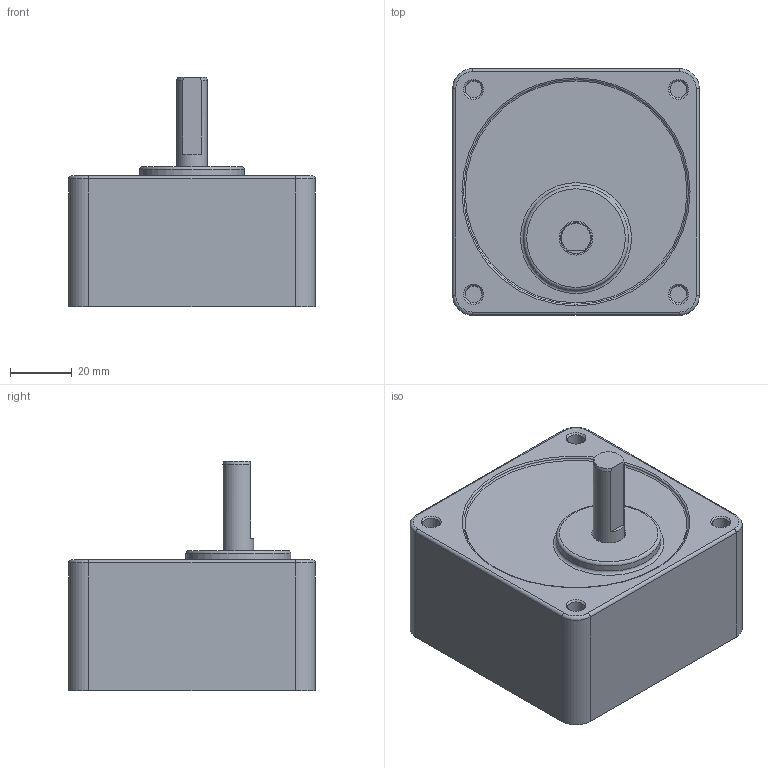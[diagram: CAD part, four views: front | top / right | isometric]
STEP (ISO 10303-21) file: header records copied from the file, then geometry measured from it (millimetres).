
FILE_DESCRIPTION((''),'2;1');
FILE_NAME('D:\STP파일\GEAR HEAD\15W25W\S8DA20~200.stp','2013-05-20T19:11:50',('leebh'),(''),'Autodesk Inventor 2011','Autodesk Inventor 2011','');
FILE_SCHEMA(('AUTOMOTIVE_DESIGN { 1 0 10303 214 1 1 1 1 }'));
Length unit declared in the file: millimetre
Products named in the file (1): S9I90G-T1
Bounding box: 80 x 80 x 74.5 mm (x, y, z)
Volume: 247264.8 mm3; surface area: 31035.5 mm2
Topology: 1 solids, 1 shells, 48 faces, 93 edges, 57 vertices
Faces by surface type: plane 18, cylinder 17, torus 8, cone 5
Full cylindrical faces by diameter (mm): 5.5 x4, 8 x1, 10 x1, 11 x1, 34 x1, 73 x1
Entity records: 1156 total; most frequent: DIRECTION 220, CARTESIAN_POINT 184, ORIENTED_EDGE 150, AXIS2_PLACEMENT_3D 98, EDGE_CURVE 75, EDGE_LOOP 75, VERTEX_POINT 56, CIRCLE 49
